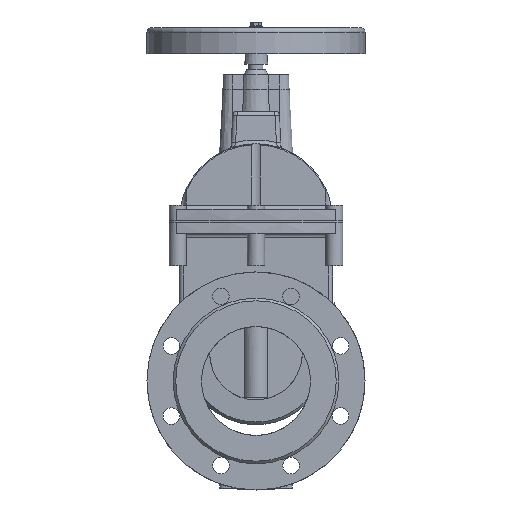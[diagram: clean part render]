
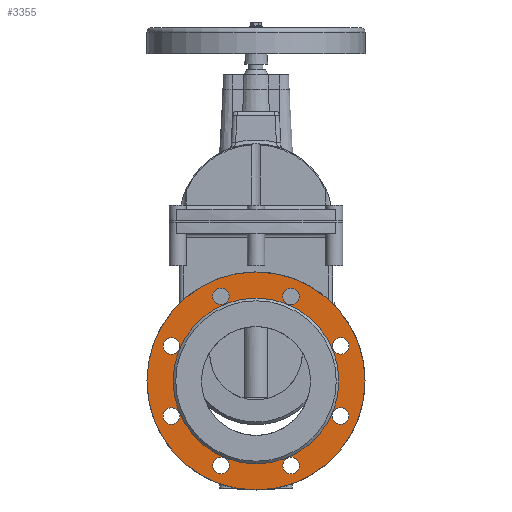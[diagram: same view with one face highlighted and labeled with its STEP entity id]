
A CAD part, left-side view. The second image highlights one B-rep face of the part: STEP entity #3355.
In plain terms, the highlighted planar face has unit normal (-1, 0, 0).
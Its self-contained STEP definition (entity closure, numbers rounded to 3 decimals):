
#3355=ADVANCED_FACE('',(#8471,#8473,#8475,#8477,#8479,#8481,#8483,#8485,#8487,#8489),
#8491,.F.);
#8471=FACE_BOUND('',#8472,.T.);
#8472=EDGE_LOOP('',(#17627));
#8473=FACE_BOUND('',#8474,.T.);
#8474=EDGE_LOOP('',(#17628));
#8475=FACE_BOUND('',#8476,.T.);
#8476=EDGE_LOOP('',(#17629));
#8477=FACE_BOUND('',#8478,.T.);
#8478=EDGE_LOOP('',(#17630));
#8479=FACE_BOUND('',#8480,.T.);
#8480=EDGE_LOOP('',(#17631));
#8481=FACE_BOUND('',#8482,.T.);
#8482=EDGE_LOOP('',(#17632));
#8483=FACE_BOUND('',#8484,.T.);
#8484=EDGE_LOOP('',(#17633));
#8485=FACE_BOUND('',#8486,.T.);
#8486=EDGE_LOOP('',(#17634));
#8487=FACE_BOUND('',#8488,.T.);
#8488=EDGE_LOOP('',(#17635));
#8489=FACE_BOUND('',#8490,.T.);
#8490=EDGE_LOOP('',(#17636));
#8491=PLANE('',#8492);
#8492=AXIS2_PLACEMENT_3D('',#8493,#8494,#8495);
#8493=CARTESIAN_POINT('',(-159.5,0.,0.));
#8494=DIRECTION('',(1.,0.,0.));
#8495=DIRECTION('',(0.,1.,0.));
#17627=ORIENTED_EDGE('',*,*,#20264,.F.);
#17628=ORIENTED_EDGE('',*,*,#20278,.T.);
#17629=ORIENTED_EDGE('',*,*,#20277,.T.);
#17630=ORIENTED_EDGE('',*,*,#20276,.T.);
#17631=ORIENTED_EDGE('',*,*,#20275,.T.);
#17632=ORIENTED_EDGE('',*,*,#20274,.T.);
#17633=ORIENTED_EDGE('',*,*,#20273,.T.);
#17634=ORIENTED_EDGE('',*,*,#20272,.T.);
#17635=ORIENTED_EDGE('',*,*,#20358,.F.);
#17636=ORIENTED_EDGE('',*,*,#20271,.T.);
#20264=EDGE_CURVE('',#22931,#22931,#22932,.T.);
#20271=EDGE_CURVE('',#22941,#22941,#22942,.T.);
#20272=EDGE_CURVE('',#22943,#22943,#22944,.T.);
#20273=EDGE_CURVE('',#22945,#22945,#22946,.T.);
#20274=EDGE_CURVE('',#22947,#22947,#22948,.T.);
#20275=EDGE_CURVE('',#22949,#22949,#22950,.T.);
#20276=EDGE_CURVE('',#22951,#22951,#22952,.T.);
#20277=EDGE_CURVE('',#22953,#22953,#22954,.T.);
#20278=EDGE_CURVE('',#22955,#22955,#22956,.T.);
#20358=EDGE_CURVE('',#23077,#23077,#23078,.T.);
#22931=VERTEX_POINT('',#31778);
#22932=CIRCLE('',#31779,125.);
#22941=VERTEX_POINT('',#31805);
#22942=CIRCLE('',#31806,9.5);
#22943=VERTEX_POINT('',#31810);
#22944=CIRCLE('',#31811,9.5);
#22945=VERTEX_POINT('',#31815);
#22946=CIRCLE('',#31816,9.5);
#22947=VERTEX_POINT('',#31820);
#22948=CIRCLE('',#31821,9.5);
#22949=VERTEX_POINT('',#31825);
#22950=CIRCLE('',#31826,9.5);
#22951=VERTEX_POINT('',#31830);
#22952=CIRCLE('',#31831,9.5);
#22953=VERTEX_POINT('',#31835);
#22954=CIRCLE('',#31836,9.5);
#22955=VERTEX_POINT('',#31840);
#22956=CIRCLE('',#31841,9.5);
#23077=VERTEX_POINT('',#32132);
#23078=CIRCLE('',#32133,95.);
#31778=CARTESIAN_POINT('',(-159.5,125.,0.));
#31779=AXIS2_PLACEMENT_3D('',#31780,#31781,#31782);
#31780=CARTESIAN_POINT('',(-159.5,0.,0.));
#31781=DIRECTION('',(1.,0.,0.));
#31782=DIRECTION('',(0.,1.,0.));
#31805=CARTESIAN_POINT('',(-159.5,106.507,40.182));
#31806=AXIS2_PLACEMENT_3D('',#31807,#31808,#31809);
#31807=CARTESIAN_POINT('',(-159.5,97.007,40.182));
#31808=DIRECTION('',(1.,0.,0.));
#31809=DIRECTION('',(0.,1.,0.));
#31810=CARTESIAN_POINT('',(-159.5,103.725,-46.899));
#31811=AXIS2_PLACEMENT_3D('',#31812,#31813,#31814);
#31812=CARTESIAN_POINT('',(-159.5,97.007,-40.182));
#31813=DIRECTION('',(1.,0.,0.));
#31814=DIRECTION('',(0.,0.707,-0.707));
#31815=CARTESIAN_POINT('',(-159.5,40.182,-106.507));
#31816=AXIS2_PLACEMENT_3D('',#31817,#31818,#31819);
#31817=CARTESIAN_POINT('',(-159.5,40.182,-97.007));
#31818=DIRECTION('',(1.,0.,0.));
#31819=DIRECTION('',(0.,0.,-1.));
#31820=CARTESIAN_POINT('',(-159.5,-46.899,-103.725));
#31821=AXIS2_PLACEMENT_3D('',#31822,#31823,#31824);
#31822=CARTESIAN_POINT('',(-159.5,-40.182,-97.007));
#31823=DIRECTION('',(1.,0.,0.));
#31824=DIRECTION('',(0.,-0.707,-0.707));
#31825=CARTESIAN_POINT('',(-159.5,-106.507,-40.182));
#31826=AXIS2_PLACEMENT_3D('',#31827,#31828,#31829);
#31827=CARTESIAN_POINT('',(-159.5,-97.007,-40.182));
#31828=DIRECTION('',(1.,0.,0.));
#31829=DIRECTION('',(0.,-1.,0.));
#31830=CARTESIAN_POINT('',(-159.5,-103.725,46.899));
#31831=AXIS2_PLACEMENT_3D('',#31832,#31833,#31834);
#31832=CARTESIAN_POINT('',(-159.5,-97.007,40.182));
#31833=DIRECTION('',(1.,0.,0.));
#31834=DIRECTION('',(0.,-0.707,0.707));
#31835=CARTESIAN_POINT('',(-159.5,-40.182,106.507));
#31836=AXIS2_PLACEMENT_3D('',#31837,#31838,#31839);
#31837=CARTESIAN_POINT('',(-159.5,-40.182,97.007));
#31838=DIRECTION('',(1.,0.,0.));
#31839=DIRECTION('',(0.,0.,1.));
#31840=CARTESIAN_POINT('',(-159.5,46.899,103.725));
#31841=AXIS2_PLACEMENT_3D('',#31842,#31843,#31844);
#31842=CARTESIAN_POINT('',(-159.5,40.182,97.007));
#31843=DIRECTION('',(1.,0.,0.));
#31844=DIRECTION('',(0.,0.707,0.707));
#32132=CARTESIAN_POINT('',(-159.5,-95.,0.));
#32133=AXIS2_PLACEMENT_3D('',#32134,#32135,#32136);
#32134=CARTESIAN_POINT('',(-159.5,0.,0.));
#32135=DIRECTION('',(-1.,0.,0.));
#32136=DIRECTION('',(0.,-1.,0.));
